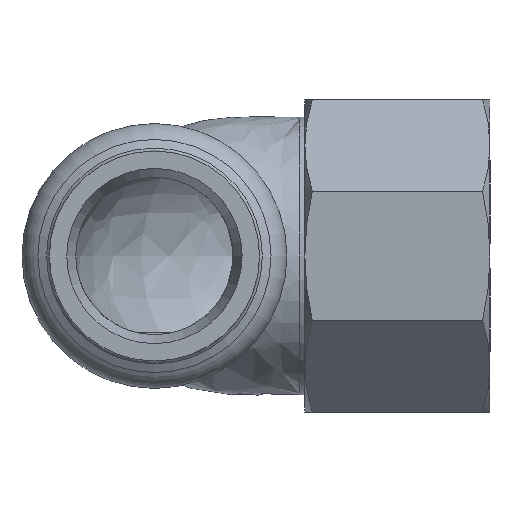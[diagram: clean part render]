
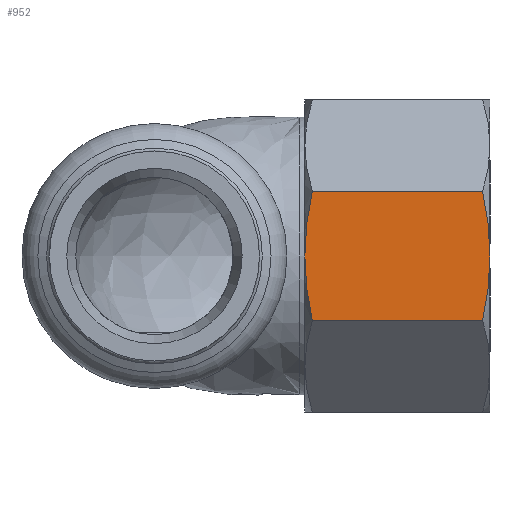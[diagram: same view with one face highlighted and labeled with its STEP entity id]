
A CAD part, left-side view. The second image highlights one B-rep face of the part: STEP entity #952.
In plain terms, the highlighted planar face has unit normal (-1, 0, 0).
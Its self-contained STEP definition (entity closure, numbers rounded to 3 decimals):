
#210=CARTESIAN_POINT('',(-13.5,-13.642,5.592));
#211=VERTEX_POINT('',#210);
#212=CARTESIAN_POINT('',(-13.5,-13.,0.0));
#213=VERTEX_POINT('',#212);
#214=CARTESIAN_POINT('',(-13.5,-13.642,5.592));
#215=CARTESIAN_POINT('',(-13.5,-13.,2.685));
#216=CARTESIAN_POINT('',(-13.5,-13.,0.0));
#224=(BOUNDED_CURVE()B_SPLINE_CURVE(2,(#214,#215,#216),.UNSPECIFIED.,.F.,.U.)B_SPLINE_CURVE_WITH_KNOTS((3,3),(0.979,1.64),.UNSPECIFIED.)CURVE()GEOMETRIC_REPRESENTATION_ITEM()RATIONAL_B_SPLINE_CURVE((1.061,1.051,1.0))REPRESENTATION_ITEM(''));
#225=EDGE_CURVE('',#211,#213,#224,.T.);
#255=CARTESIAN_POINT('',(-13.5,-13.642,-5.592));
#256=VERTEX_POINT('',#255);
#272=CARTESIAN_POINT('',(-13.5,-13.,0.0));
#273=CARTESIAN_POINT('',(-13.5,-13.,-2.685));
#274=CARTESIAN_POINT('',(-13.5,-13.642,-5.592));
#282=(BOUNDED_CURVE()B_SPLINE_CURVE(2,(#272,#273,#274),.UNSPECIFIED.,.F.,.U.)B_SPLINE_CURVE_WITH_KNOTS((3,3),(1.64,2.302),.UNSPECIFIED.)CURVE()GEOMETRIC_REPRESENTATION_ITEM()RATIONAL_B_SPLINE_CURVE((1.0,1.051,1.061))REPRESENTATION_ITEM(''));
#283=EDGE_CURVE('',#213,#256,#282,.T.);
#570=CARTESIAN_POINT('',(-13.5,-28.358,-5.592));
#571=VERTEX_POINT('',#570);
#572=CARTESIAN_POINT('',(-13.5,-29.,0.0));
#573=VERTEX_POINT('',#572);
#574=CARTESIAN_POINT('',(-13.5,-28.358,-5.592));
#575=CARTESIAN_POINT('',(-13.5,-29.,-2.685));
#576=CARTESIAN_POINT('',(-13.5,-29.,0.0));
#584=(BOUNDED_CURVE()B_SPLINE_CURVE(2,(#574,#575,#576),.UNSPECIFIED.,.F.,.U.)B_SPLINE_CURVE_WITH_KNOTS((3,3),(0.979,1.64),.UNSPECIFIED.)CURVE()GEOMETRIC_REPRESENTATION_ITEM()RATIONAL_B_SPLINE_CURVE((1.061,1.051,1.0))REPRESENTATION_ITEM(''));
#585=EDGE_CURVE('',#571,#573,#584,.T.);
#615=CARTESIAN_POINT('',(-13.5,-28.358,5.592));
#616=VERTEX_POINT('',#615);
#617=CARTESIAN_POINT('',(-13.5,-29.,0.0));
#618=CARTESIAN_POINT('',(-13.5,-29.,2.685));
#619=CARTESIAN_POINT('',(-13.5,-28.358,5.592));
#627=(BOUNDED_CURVE()B_SPLINE_CURVE(2,(#617,#618,#619),.UNSPECIFIED.,.F.,.U.)B_SPLINE_CURVE_WITH_KNOTS((3,3),(1.64,2.302),.UNSPECIFIED.)CURVE()GEOMETRIC_REPRESENTATION_ITEM()RATIONAL_B_SPLINE_CURVE((1.0,1.051,1.061))REPRESENTATION_ITEM(''));
#628=EDGE_CURVE('',#573,#616,#627,.T.);
#803=CARTESIAN_POINT('',(-13.5,-28.358,-5.592));
#804=DIRECTION('',(0.0,1.0,0.0));
#805=VECTOR('',#804,14.716);
#806=LINE('',#803,#805);
#807=EDGE_CURVE('',#571,#256,#806,.T.);
#926=CARTESIAN_POINT('',(-13.5,-28.358,5.592));
#927=DIRECTION('',(0.0,1.0,0.0));
#928=VECTOR('',#927,14.716);
#929=LINE('',#926,#928);
#930=EDGE_CURVE('',#616,#211,#929,.T.);
#939=CARTESIAN_POINT('',(-13.5,-29.0,5.592));
#940=DIRECTION('',(-1.0,0.0,0.0));
#941=DIRECTION('',(0.0,0.0,1.0));
#942=AXIS2_PLACEMENT_3D('',#939,#940,#941);
#943=PLANE('',#942);
#944=ORIENTED_EDGE('',*,*,#283,.T.);
#945=ORIENTED_EDGE('',*,*,#807,.F.);
#946=ORIENTED_EDGE('',*,*,#585,.T.);
#947=ORIENTED_EDGE('',*,*,#628,.T.);
#948=ORIENTED_EDGE('',*,*,#930,.T.);
#949=ORIENTED_EDGE('',*,*,#225,.T.);
#950=EDGE_LOOP('',(#944,#945,#946,#947,#948,#949));
#951=FACE_OUTER_BOUND('',#950,.T.);
#952=ADVANCED_FACE('',(#951),#943,.T.);
